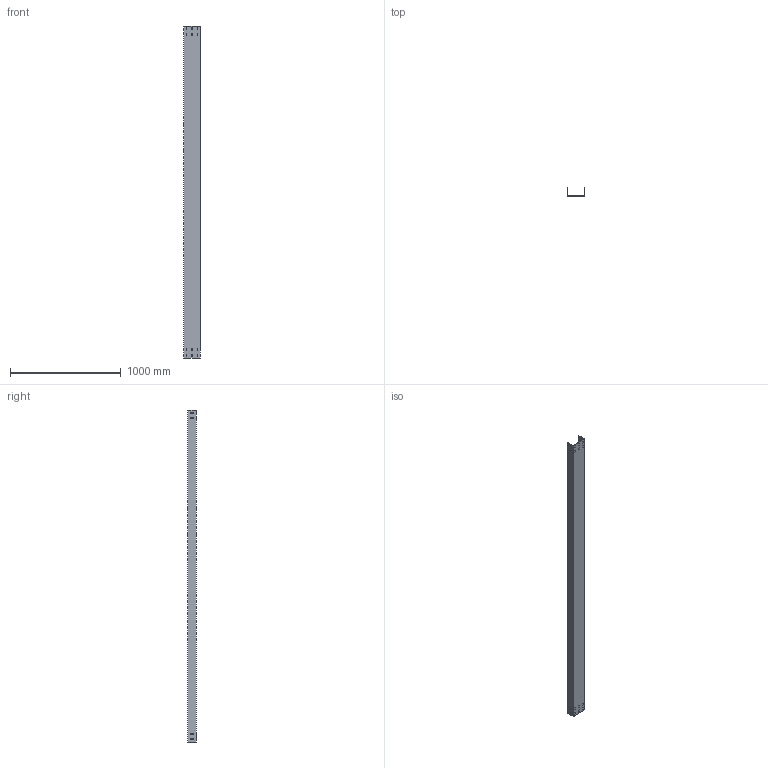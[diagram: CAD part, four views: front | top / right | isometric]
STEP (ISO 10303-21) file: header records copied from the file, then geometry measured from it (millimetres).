
FILE_DESCRIPTION (( 'STEP AP214' ), '1' );
FILE_NAME ('CF_157.step', '2025-07-16T09:05:28', ( '' ), ( '' ), 'SwSTEP 2.0', 'SolidWorks 2023', '' );
FILE_SCHEMA (( 'AUTOMOTIVE_DESIGN' ));
Length unit declared in the file: millimetre
Products named in the file (1): CF_157
Bounding box: 150 x 75 x 3000 mm (x, y, z)
Volume: 1332300 mm3; surface area: 1788079 mm2
Topology: 1 solids, 1 shells, 122 faces, 360 edges, 240 vertices
Faces by surface type: plane 122
Entity records: 4119 total; most frequent: CARTESIAN_POINT 723, ORIENTED_EDGE 720, DIRECTION 606, VECTOR 360, LINE 360, EDGE_CURVE 360, VERTEX_POINT 240, EDGE_LOOP 178
